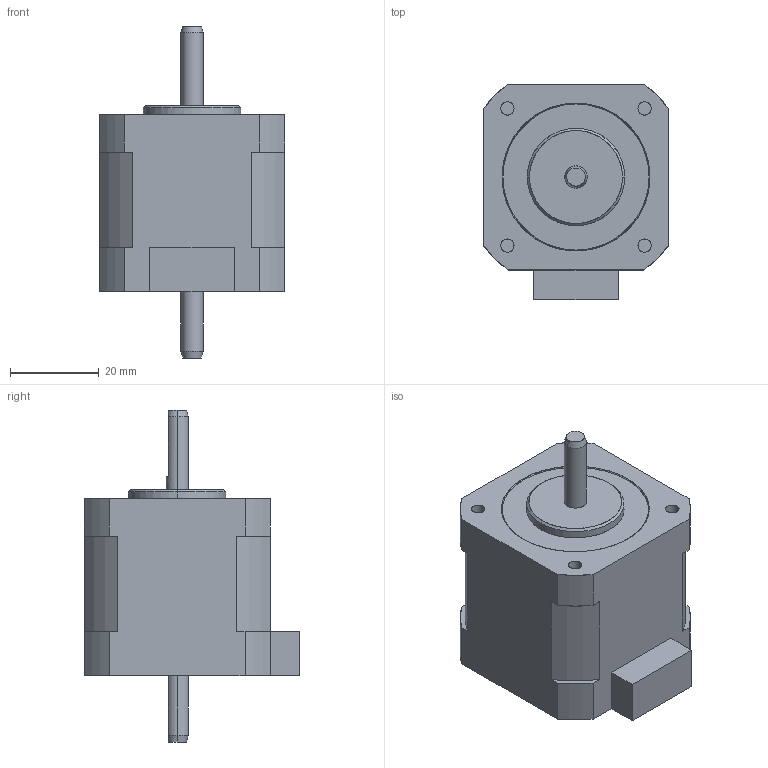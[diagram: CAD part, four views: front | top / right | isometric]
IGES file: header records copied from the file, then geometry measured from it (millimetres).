
Start section: SolidWorks IGES file using analytic representation for surfaces
Global section: file name: C:\Users\6870\Desktop\PMSA-U42D2D_3D.IGS; native system: SolidWorks 2014; preprocessor: SolidWorks 2014; author: 6870; date: 170131.133041; units: millimetre
Bounding box: 42 x 48.7 x 75 mm (x, y, z)
Surface area: 10794.1 mm2 (no closed solid volume)
Topology: 0 solids, 0 shells, 66 faces, 912 edges, 912 vertices
Faces by surface type: revolution 37, bspline 29
